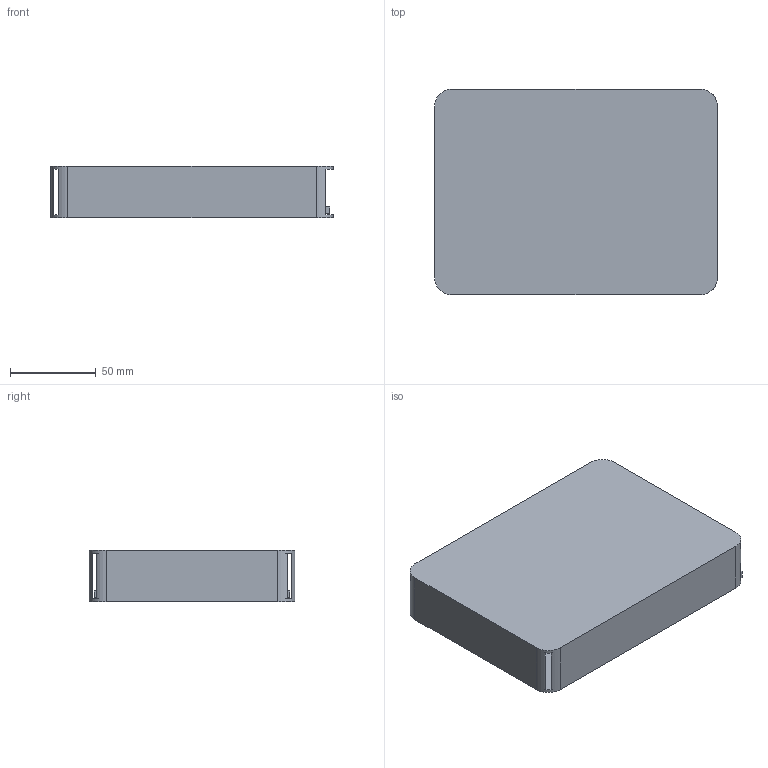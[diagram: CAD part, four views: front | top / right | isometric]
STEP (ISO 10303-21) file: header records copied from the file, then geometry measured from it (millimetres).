
FILE_DESCRIPTION(('FreeCAD Model'),'2;1');
FILE_NAME('Open CASCADE Shape Model','2026-10-01T18:12:13',('Author'),( ''),'Open CASCADE STEP processor 7.8','FreeCAD','Unknown');
FILE_SCHEMA(('AUTOMOTIVE_DESIGN { 1 0 10303 214 1 1 1 1 }'));
Length unit declared in the file: millimetre
Products named in the file (11): BubushengdianStampKit; Protective outer case; Sliding six-stamp tray; Stamp 01 — 学步桥; Stamp 02 — 回车巷; Stamp 03 — 武灵丛台; Stamp 04 — 邯郸市博物馆; Stamp 05 — 月满邯郸; Stamp 06 — 山河同游; Isolated water-based ink pad case; Folded 480 × 330 mm route-map proxy
Assembly tree (10 placements, depth 2):
  BubushengdianStampKit
    Protective outer case
    Sliding six-stamp tray
    Stamp 01 — 学步桥
    Stamp 02 — 回车巷
    Stamp 03 — 武灵丛台
    Stamp 04 — 邯郸市博物馆
    Stamp 05 — 月满邯郸
    Stamp 06 — 山河同游
    Isolated water-based ink pad case
    Folded 480 × 330 mm route-map proxy
Bounding box: 165 x 120 x 30 mm (x, y, z)
Volume: 291998.3 mm3; surface area: 199643.2 mm2
Topology: 10 solids, 10 shells, 153 faces, 380 edges, 254 vertices
Faces by surface type: plane 110, cylinder 43
Full cylindrical faces by diameter (mm): 5.2 x6
Entity records: 4728 total; most frequent: DIRECTION 806, CARTESIAN_POINT 798, ORIENTED_EDGE 760, EDGE_CURVE 380, LINE 282, VECTOR 282, AXIS2_PLACEMENT_3D 262, VERTEX_POINT 254
